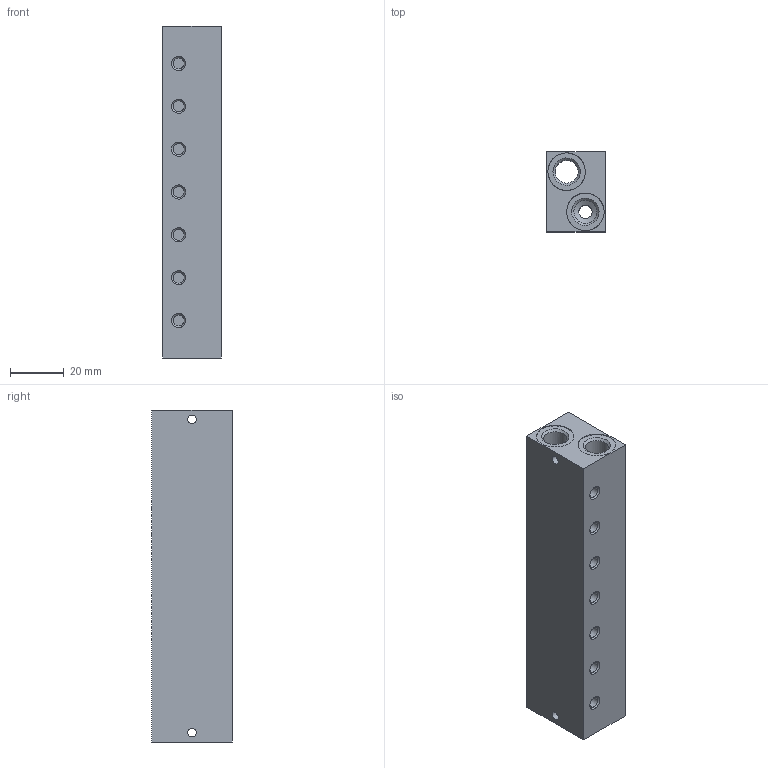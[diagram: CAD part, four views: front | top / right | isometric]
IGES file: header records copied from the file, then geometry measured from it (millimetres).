
Global section: file name: 355_07; native system: Autodesk Inventor 2014; preprocessor: unknown; author: R.Rivoltella; organization: Pneumax S.p.A.; date: 20161003.105258; units: millimetre
Bounding box: 22 x 30 x 124 mm (x, y, z)
Volume: 69816.5 mm3; surface area: 21151.7 mm2
Topology: 1 solids, 1 shells, 93 faces, 276 edges, 198 vertices
Faces by surface type: bspline 93
